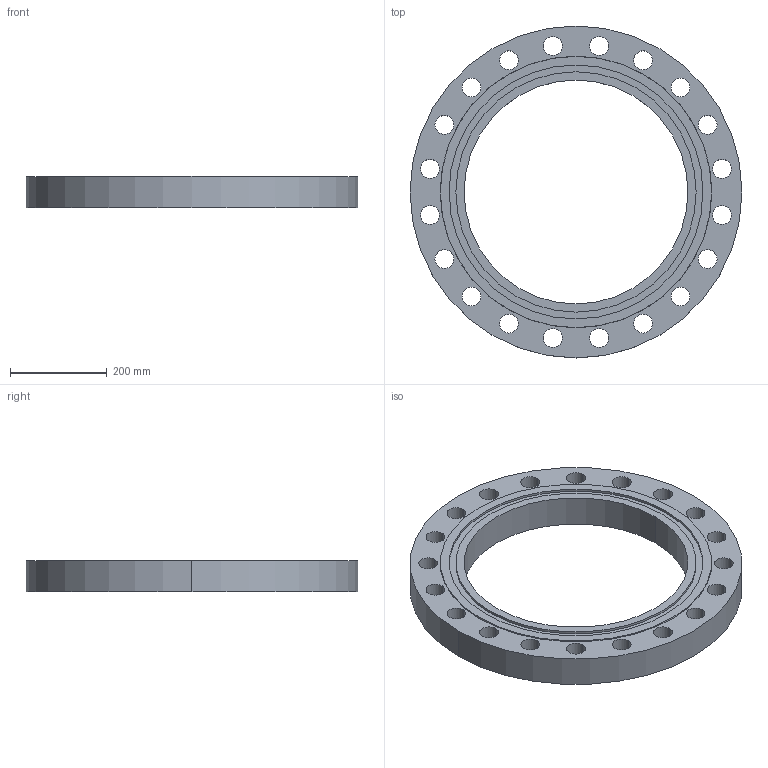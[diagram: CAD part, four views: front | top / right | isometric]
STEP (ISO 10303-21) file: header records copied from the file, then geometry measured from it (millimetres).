
FILE_DESCRIPTION (( 'STEP AP214' ), '1' );
FILE_NAME ('PN40 DN450 Type 01 - Type D Face.STEP', '2018-12-29T02:51:52', ( '' ), ( '' ), 'SwSTEP 2.0', 'SolidWorks 2019', '' );
FILE_SCHEMA (( 'AUTOMOTIVE_DESIGN' ));
Length unit declared in the file: millimetre
Products named in the file (1): PN40 DN450 Type 01 - Type D Face
Bounding box: 685 x 685 x 66 mm (x, y, z)
Volume: 11373669.9 mm3; surface area: 763321.8 mm2
Topology: 1 solids, 1 shells, 55 faces, 150 edges, 100 vertices
Faces by surface type: cylinder 48, plane 5, cone 2
Entity records: 1922 total; most frequent: DIRECTION 362, CARTESIAN_POINT 306, ORIENTED_EDGE 300, AXIS2_PLACEMENT_3D 156, EDGE_CURVE 150, CIRCLE 100, EDGE_LOOP 100, VERTEX_POINT 100
